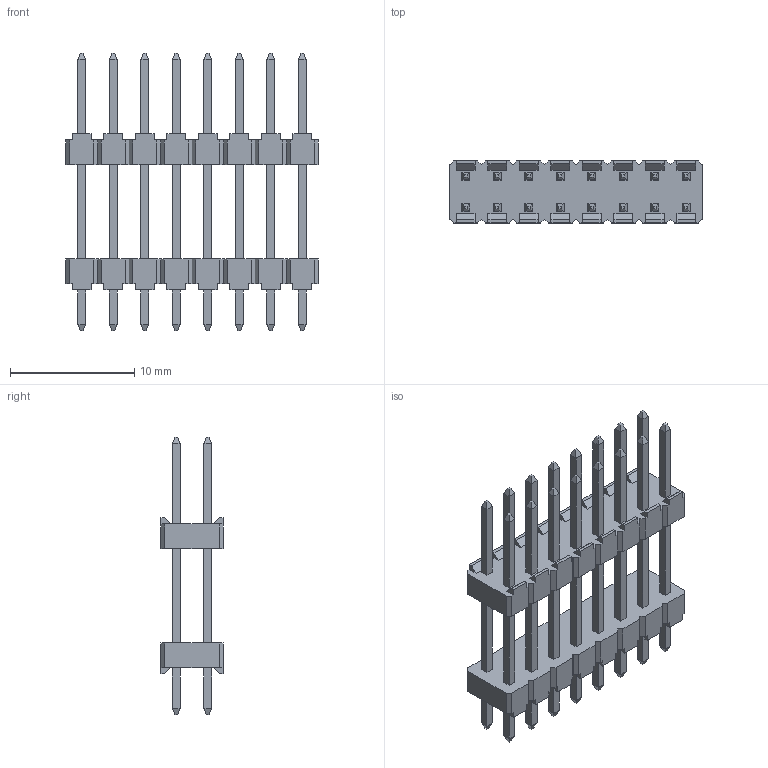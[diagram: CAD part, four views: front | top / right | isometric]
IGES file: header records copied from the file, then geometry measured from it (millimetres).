
Global section: file name: N:\GOLF_VI_2_54mm_UGII\9614XX-X04XX04-XX (TS-2185)\961416-8041204-XX.igs; native system: NX V3.0; preprocessor: UGS NX IGES V4.0; date: 20070618.104154; units: millimetre
Bounding box: 20.32 x 5 x 22.4 mm (x, y, z)
Surface area: 1376.6 mm2 (no closed solid volume)
Topology: 0 solids, 0 shells, 620 faces, 3249 edges, 3249 vertices
Faces by surface type: bspline 620
